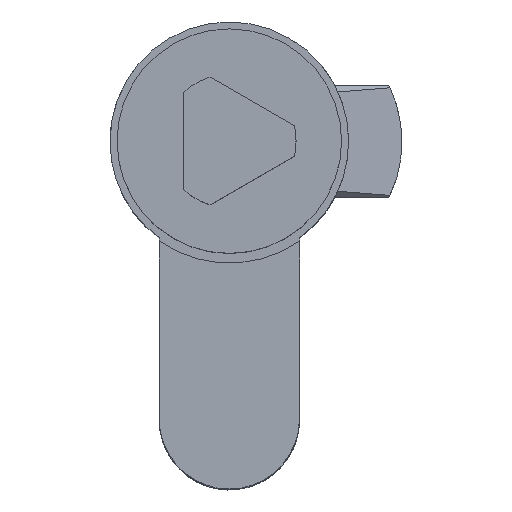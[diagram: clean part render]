
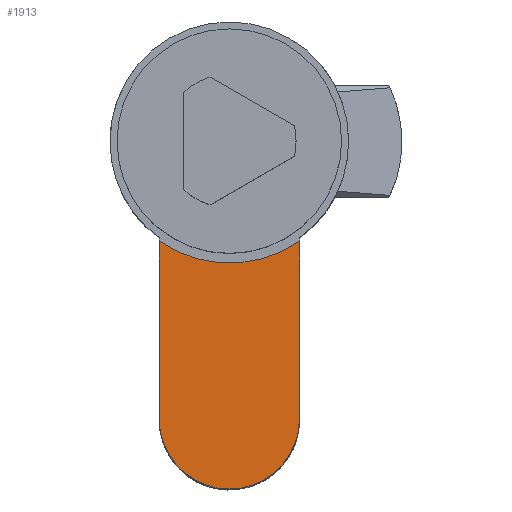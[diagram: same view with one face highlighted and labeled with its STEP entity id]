
A CAD part, top view. The second image highlights one B-rep face of the part: STEP entity #1913.
In plain terms, the highlighted planar face has unit normal (0, 0, 1).
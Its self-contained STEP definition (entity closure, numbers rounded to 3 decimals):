
#210 = CARTESIAN_POINT ( 'NONE',  ( 5., -19.8, 14. ) ) ;
#546 = EDGE_CURVE ( 'NONE', #1954, #3160, #2154, .T. ) ;
#698 = FACE_OUTER_BOUND ( 'NONE', #1639, .T. ) ;
#769 = DIRECTION ( 'NONE',  ( 0., 1., 0. ) ) ;
#788 = CARTESIAN_POINT ( 'NONE',  ( -5., -20.059, 14. ) ) ;
#1245 = EDGE_CURVE ( 'NONE', #5375, #1727, #1453, .T. ) ;
#1330 = CIRCLE ( 'NONE', #5112, 8.7 ) ;
#1416 = EDGE_CURVE ( 'NONE', #1954, #1727, #1330, .T. ) ;
#1435 = VECTOR ( 'NONE', #769, 1000. ) ;
#1453 = LINE ( 'NONE', #788, #1435 ) ;
#1484 = EDGE_CURVE ( 'NONE', #3160, #5375, #3331, .T. ) ;
#1639 = EDGE_LOOP ( 'NONE', ( #2902, #2868, #2833, #2815 ) ) ;
#1727 = VERTEX_POINT ( 'NONE', #5517 ) ;
#1913 = ADVANCED_FACE ( 'NONE', ( #698 ), #4829, .F. ) ;
#1954 = VERTEX_POINT ( 'NONE', #5532 ) ;
#2111 = CARTESIAN_POINT ( 'NONE',  ( 0., 0., 14. ) ) ;
#2130 = DIRECTION ( 'NONE',  ( 0., 0., -1. ) ) ;
#2141 = DIRECTION ( 'NONE',  ( 0., 1., 0. ) ) ;
#2143 = VECTOR ( 'NONE', #4903, 1000. ) ;
#2154 = LINE ( 'NONE', #5107, #2143 ) ;
#2355 = AXIS2_PLACEMENT_3D ( 'NONE', #4788, #4765, #4761 ) ;
#2815 = ORIENTED_EDGE ( 'NONE', *, *, #1484, .F. ) ;
#2833 = ORIENTED_EDGE ( 'NONE', *, *, #1245, .F. ) ;
#2868 = ORIENTED_EDGE ( 'NONE', *, *, #1416, .T. ) ;
#2902 = ORIENTED_EDGE ( 'NONE', *, *, #546, .F. ) ;
#3160 = VERTEX_POINT ( 'NONE', #210 ) ;
#3266 = AXIS2_PLACEMENT_3D ( 'NONE', #3294, #3304, #3314 ) ;
#3294 = CARTESIAN_POINT ( 'NONE',  ( 0., -19.8, 14. ) ) ;
#3304 = DIRECTION ( 'NONE',  ( 0., 0., -1. ) ) ;
#3314 = DIRECTION ( 'NONE',  ( 0., 1., 0. ) ) ;
#3331 = CIRCLE ( 'NONE', #3266, 5. ) ;
#4761 = DIRECTION ( 'NONE',  ( -1., 0., 0. ) ) ;
#4765 = DIRECTION ( 'NONE',  ( 0., 0., -1. ) ) ;
#4788 = CARTESIAN_POINT ( 'NONE',  ( 5.2, -25.16, 14. ) ) ;
#4829 = PLANE ( 'NONE',  #2355 ) ;
#4903 = DIRECTION ( 'NONE',  ( 0., -1., 0. ) ) ;
#5107 = CARTESIAN_POINT ( 'NONE',  ( 5., -6.615, 14. ) ) ;
#5112 = AXIS2_PLACEMENT_3D ( 'NONE', #2111, #2130, #2141 ) ;
#5117 = CARTESIAN_POINT ( 'NONE',  ( -5., -19.8, 14. ) ) ;
#5375 = VERTEX_POINT ( 'NONE', #5117 ) ;
#5517 = CARTESIAN_POINT ( 'NONE',  ( -5., -7.12, 14. ) ) ;
#5532 = CARTESIAN_POINT ( 'NONE',  ( 5., -7.12, 14. ) ) ;
